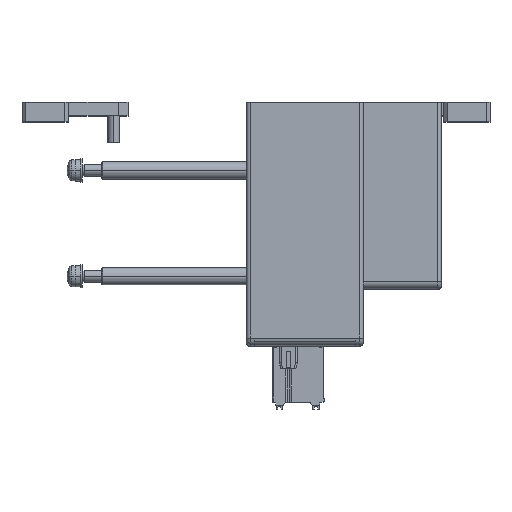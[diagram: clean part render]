
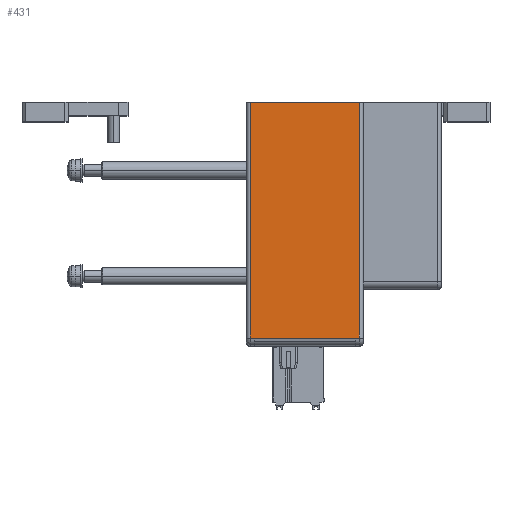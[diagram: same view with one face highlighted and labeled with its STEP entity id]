
A CAD part, top view. The second image highlights one B-rep face of the part: STEP entity #431.
In plain terms, the highlighted planar face has unit normal (0, 0, 1).
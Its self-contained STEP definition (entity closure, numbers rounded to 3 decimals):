
#431=ADVANCED_FACE('',(#4040),#4039,.F.);
#4039=PLANE('',#10411);
#4040=FACE_OUTER_BOUND('',#10412,.T.);
#10408=CARTESIAN_POINT('',(31.8,-72.15,62.2));
#10409=DIRECTION('',(0.,0.,-1.));
#10410=DIRECTION('',(-1.,0.,0.));
#10411=AXIS2_PLACEMENT_3D('',#10408,#10409,#10410);
#10412=EDGE_LOOP('',(#15255,#15256,#15257,#15258));
#15255=ORIENTED_EDGE('',*,*,#17709,.T.);
#15256=ORIENTED_EDGE('',*,*,#18549,.F.);
#15257=ORIENTED_EDGE('',*,*,#17740,.T.);
#15258=ORIENTED_EDGE('',*,*,#17598,.T.);
#17598=EDGE_CURVE('',#20566,#20559,#20567,.T.);
#17709=EDGE_CURVE('',#20559,#21322,#21329,.T.);
#17740=EDGE_CURVE('',#21524,#20566,#21537,.T.);
#18549=EDGE_CURVE('',#21524,#21322,#26987,.T.);
#20559=VERTEX_POINT('',#33206);
#20566=VERTEX_POINT('',#33211);
#20567=LINE('',#33212,#33213);
#21322=VERTEX_POINT('',#33661);
#21329=LINE('',#33666,#33667);
#21524=VERTEX_POINT('',#33790);
#21537=LINE('',#33799,#33800);
#26987=LINE('',#36977,#36978);
#33206=CARTESIAN_POINT('',(1.,-5.6,62.2));
#33211=CARTESIAN_POINT('',(29.,-5.6,62.2));
#33212=CARTESIAN_POINT('',(29.,-5.6,62.2));
#33213=VECTOR('',#33214,28.);
#33214=DIRECTION('',(-1.,0.,0.));
#33661=CARTESIAN_POINT('',(1.,-66.1,62.2));
#33666=CARTESIAN_POINT('',(1.,-5.6,62.2));
#33667=VECTOR('',#33668,60.5);
#33668=DIRECTION('',(0.,-1.,0.));
#33790=CARTESIAN_POINT('',(29.,-66.1,62.2));
#33799=CARTESIAN_POINT('',(29.,-66.1,62.2));
#33800=VECTOR('',#33801,60.5);
#33801=DIRECTION('',(0.,1.,0.));
#36977=CARTESIAN_POINT('',(29.,-66.1,62.2));
#36978=VECTOR('',#36979,28.);
#36979=DIRECTION('',(-1.,0.,0.));
